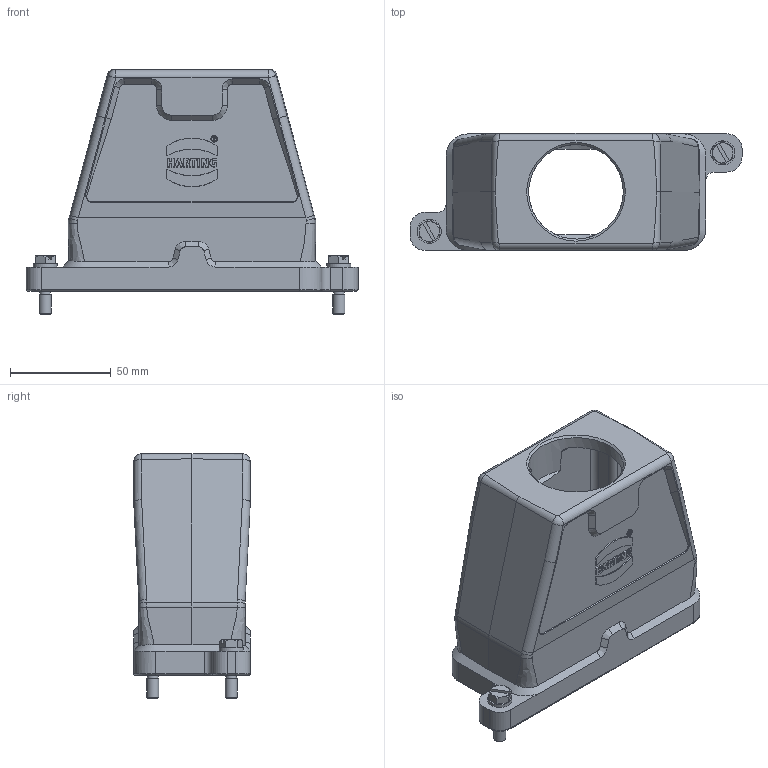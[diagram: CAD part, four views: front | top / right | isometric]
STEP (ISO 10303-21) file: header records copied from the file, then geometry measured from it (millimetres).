
FILE_DESCRIPTION(/* description */ (''),/* implementation_level */ '2;1');
FILE_NAME(/* name */ '100765474ugm000_a.stp',/* time_stamp */ '2018-03-06T09:47:39+01:00',/* author */ (''),/* organization */ (''),/* preprocessor_version */ 'ST-DEVELOPER v16',/* originating_system */ 'SIEMENS PLM Software NX 10.0',/* authorisation */ '');
FILE_SCHEMA (('AUTOMOTIVE_DESIGN { 1 0 10303 214 3 1 1 1 }'));
Length unit declared in the file: millimetre
Products named in the file (1): 100765474ugm000_a
Bounding box: 165 x 58 x 121.4 mm (x, y, z)
Volume: 195990.7 mm3; surface area: 82723 mm2
Topology: 1 solids, 1 shells, 507 faces, 1860 edges, 1936 vertices
Faces by surface type: plane 237, cylinder 139, bspline 64, cone 43, torus 20, sphere 4
Full cylindrical faces by diameter (mm): 3 x4, 5.3 x2, 6 x2, 12 x2, 13 x2, 47 x1
Entity records: 22954 total; most frequent: CARTESIAN_POINT 6839, ORIENTED_EDGE 2522, DIRECTION 2486, EDGE_CURVE 1261, LINE 836, VECTOR 836, AXIS2_PLACEMENT_3D 825, VERTEX_POINT 810
